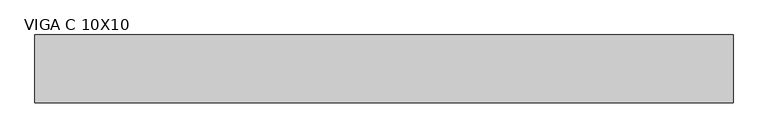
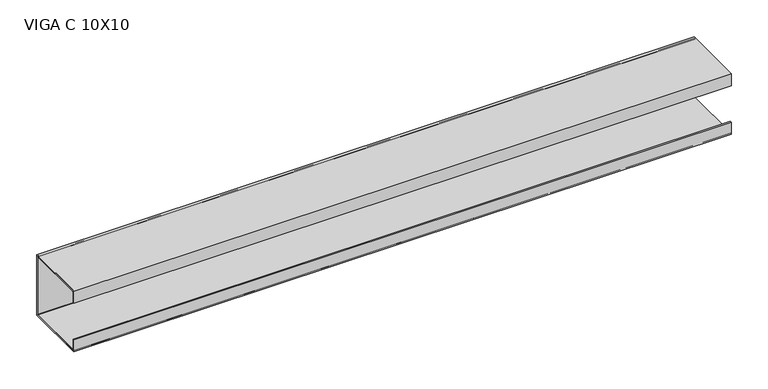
"""IFC4 building model written with IfcOpenShell, lengths in millimetres: beam geometry, VIGA PERFIL C AÇO : VIGA C 10X10."""

import ifcopenshell
import ifcopenshell.guid

model = None  # the IFC model being written
_history = None  # IfcOwnerHistory: only IFC2X3 demands one
_inside = {}  # id of a spatial element -> (the spatial element, [elements in it])
_under = {}  # id of a project, library or spatial element -> (it, [spatial elements below it])
_declared = {}  # id of a project -> (the project, [libraries it declares])
_typed = {}  # id of a type object -> (the type object, [elements of that type])
_made_of = {}  # id of a material, layer set ... -> (it, [elements and type objects made of it])


def new_model(schema):
    """Start an empty IFC model of exactly this schema.

    Asked for "IFC4X3", IfcOpenShell would pick the latest addendum, in which some entities
    have other attributes; the version numbers below select the first issue.
    IFC2X3 requires an IfcOwnerHistory on every rooted entity: one is made here for all.
    """
    global model, _history
    if schema == "IFC4X3":
        model = ifcopenshell.file(schema_version=(4, 3, 0, 0))
    else:
        model = ifcopenshell.file(schema=schema)
    _inside.clear()
    _under.clear()
    _declared.clear()
    _typed.clear()
    _made_of.clear()
    _history = None
    if model.schema == "IFC2X3":
        org = make("IfcOrganization", Name="unknown")
        user = make(
            "IfcPersonAndOrganization",
            ThePerson=make("IfcPerson", FamilyName="unknown"),
            TheOrganization=org,
        )
        app = make(
            "IfcApplication",
            ApplicationDeveloper=org,
            Version="unknown",
            ApplicationFullName="unknown",
            ApplicationIdentifier="unknown",
        )
        _history = make(
            "IfcOwnerHistory",
            OwningUser=user,
            OwningApplication=app,
            ChangeAction="ADDED",
            CreationDate=0,
        )
    return model


def make(cls, **values):
    """One entity of the class cls with the attributes given. An attribute that is None is left unset."""
    return model.create_entity(
        cls, **{name: value for name, value in values.items() if value is not None}
    )


def rooted(cls, **values):
    """An entity with a GlobalId (a new one), such as an element, a storey or a relation."""
    return make(cls, GlobalId=ifcopenshell.guid.new(), OwnerHistory=_history, **values)


def si_unit(unit_type, name, prefix=None):
    """IfcSIUnit, for example si_unit("LENGTHUNIT", "METRE", prefix="MILLI")."""
    return make("IfcSIUnit", UnitType=unit_type, Prefix=prefix, Name=name)


def assignment(units):
    """IfcUnitAssignment: the units of a project."""
    return None if units is None else make("IfcUnitAssignment", Units=units)


def point(xyz):
    """IfcCartesianPoint."""
    return None if xyz is None else make("IfcCartesianPoint", Coordinates=xyz)


def direction(xyz):
    """IfcDirection."""
    return None if xyz is None else make("IfcDirection", DirectionRatios=xyz)


def frame(location, z_axis=None, x_axis=None):
    """IfcAxis2Placement3D, a coordinate frame: its origin and axes. An axis left out is left unset."""
    return make(
        "IfcAxis2Placement3D",
        Location=point(location),
        Axis=direction(z_axis),
        RefDirection=direction(x_axis),
    )


def frame_2d(location, x_axis=None):
    """IfcAxis2Placement2D, a coordinate frame in the plane: its origin and x axis."""
    return make(
        "IfcAxis2Placement2D", Location=point(location), RefDirection=direction(x_axis)
    )


def origin():
    """The frame at (0, 0, 0) with its axes left unset."""
    return frame((0.0, 0.0, 0.0))


def place(relative_to, where):
    """IfcLocalPlacement: puts the frame where relative to a parent placement (None: the world)."""
    return make(
        "IfcLocalPlacement", PlacementRelTo=relative_to, RelativePlacement=where
    )


def context(
    kind, dimensions, precision=None, world=None, true_north=None, identifier=None
):
    """IfcGeometricRepresentationContext, for example the 3D "Model" context."""
    return make(
        "IfcGeometricRepresentationContext",
        ContextIdentifier=identifier,
        ContextType=kind,
        CoordinateSpaceDimension=dimensions,
        Precision=precision,
        WorldCoordinateSystem=world,
        TrueNorth=true_north,
    )


def project(units=None, contexts=None):
    """IfcProject with its units and contexts."""
    return rooted(
        "IfcProject",
        Name="project",
        RepresentationContexts=contexts,
        UnitsInContext=assignment(units),
    )


def spatial(cls, under=None, at=None, **own):
    """A site, building, storey or space (cls), placed at a placement, below another one or the project."""
    s = rooted(cls, ObjectPlacement=at, **own)
    if under is not None:
        _under.setdefault(under.id(), (under, []))[1].append(s)
    return s


def polyline(points):
    """IfcPolyline through the points."""
    return make("IfcPolyline", Points=[point(p) for p in points])


def circle_curve(where, radius):
    """IfcCircle in the frame where."""
    return make("IfcCircle", Position=where, Radius=radius)


def trimmed(basis, trim1, trim2, sense, master):
    """IfcTrimmedCurve: the piece of a basis curve between two trims."""
    return make(
        "IfcTrimmedCurve",
        BasisCurve=basis,
        Trim1=trim1,
        Trim2=trim2,
        SenseAgreement=sense,
        MasterRepresentation=master,
    )


def segment(curve, same_sense, transition):
    """IfcCompositeCurveSegment."""
    return make(
        "IfcCompositeCurveSegment",
        Transition=transition,
        SameSense=same_sense,
        ParentCurve=curve,
    )


def composite_curve(segments, self_intersect=None):
    """IfcCompositeCurve: segments joined end to end."""
    return make("IfcCompositeCurve", Segments=segments, SelfIntersect=self_intersect)


def outline(outer, holes=None, kind="AREA"):
    """IfcArbitraryClosedProfileDef: a profile drawn as a closed curve; with holes, ...WithVoids."""
    if holes is None:
        return make("IfcArbitraryClosedProfileDef", ProfileType=kind, OuterCurve=outer)
    return make(
        "IfcArbitraryProfileDefWithVoids",
        ProfileType=kind,
        OuterCurve=outer,
        InnerCurves=holes,
    )


def extrude(swept, where, along, depth):
    """IfcExtrudedAreaSolid: the profile swept, set in the frame where, extruded along a direction by depth."""
    return make(
        "IfcExtrudedAreaSolid",
        SweptArea=swept,
        Position=where,
        ExtrudedDirection=direction(along),
        Depth=depth,
    )


def shape(context_of_items, identifier, shape_type, items):
    """IfcShapeRepresentation: the items that make up one representation, for example the "Body"."""
    return make(
        "IfcShapeRepresentation",
        ContextOfItems=context_of_items,
        RepresentationIdentifier=identifier,
        RepresentationType=shape_type,
        Items=items,
    )


def source(mapping_origin, context_of_items, identifier, shape_type, items):
    """IfcRepresentationMap: a shape defined once, which mapped items show again and again."""
    return make(
        "IfcRepresentationMap",
        MappingOrigin=mapping_origin,
        MappedRepresentation=shape(context_of_items, identifier, shape_type, items),
    )


def transform(
    local_origin,
    x_axis=None,
    y_axis=None,
    z_axis=None,
    scale=None,
    scale2=None,
    scale3=None,
    uniform=True,
):
    """IfcCartesianTransformationOperator3D, or its non-uniform kind. x_axis, y_axis, z_axis: its Axis1, 2, 3."""
    if uniform:
        return make(
            "IfcCartesianTransformationOperator3D",
            Axis1=direction(x_axis),
            Axis2=direction(y_axis),
            LocalOrigin=point(local_origin),
            Scale=scale,
            Axis3=direction(z_axis),
        )
    return make(
        "IfcCartesianTransformationOperator3DnonUniform",
        Axis1=direction(x_axis),
        Axis2=direction(y_axis),
        LocalOrigin=point(local_origin),
        Scale=scale,
        Axis3=direction(z_axis),
        Scale2=scale2,
        Scale3=scale3,
    )


def mapped(mapping_source, mapping_target):
    """IfcMappedItem: shows the shape of a source again, moved by a transform."""
    return make(
        "IfcMappedItem", MappingSource=mapping_source, MappingTarget=mapping_target
    )


def made_of(thing, what):
    """Note that an element or type object is made of a material, layer set ...; save() writes the relation."""
    if what is not None:
        _made_of.setdefault(what.id(), (what, []))[1].append(thing)
    return thing


def element(
    cls,
    number,
    at=None,
    inside=None,
    cuts=None,
    type_object=None,
    material=None,
    context=None,
    identifier="Body",
    shape_type=None,
    held_by="IfcProductDefinitionShape",
    body=None,
    shapes=None,
    **own,
):
    """One element of the class cls, such as IfcWall. Its Tag is "e" and its number.

    at: its placement. inside: the storey or other place that contains it. cuts: it is an
    opening in that element (IfcRelVoidsElement). A single representation is given by context,
    identifier, shape_type and body (its items); several are given by shapes. held_by: the class
    of the entity that holds the representations. save() writes the other relations.
    """
    e = rooted(cls, Tag="e%d" % number, ObjectPlacement=at, **own)
    if body is not None:
        shapes = [shape(context, identifier, shape_type, body)]
    if shapes is not None:
        e.Representation = make(held_by, Representations=shapes)
    if inside is not None:
        _inside.setdefault(inside.id(), (inside, []))[1].append(e)
    if cuts is not None:
        rooted(
            "IfcRelVoidsElement", RelatingBuildingElement=cuts, RelatedOpeningElement=e
        )
    if type_object is not None:
        _typed.setdefault(type_object.id(), (type_object, []))[1].append(e)
    return made_of(e, material)


def aggregate(whole, parts):
    """IfcRelAggregates: a whole, such as a stair, and the parts it consists of."""
    return rooted("IfcRelAggregates", RelatingObject=whole, RelatedObjects=parts)


def save(model, path):
    """Write the relations noted so far, then the file.

    IfcRelAggregates (storeys below a building ...), IfcRelContainedInSpatialStructure (elements
    in a storey), IfcRelDefinesByType, IfcRelAssociatesMaterial and IfcRelDeclares: one each for
    every whole, place, type object, material and project.
    """
    for whole, parts in _under.values():
        aggregate(whole, parts)
    for where, things in _inside.values():
        rooted(
            "IfcRelContainedInSpatialStructure",
            RelatedElements=things,
            RelatingStructure=where,
        )
    for kind, things in _typed.values():
        rooted("IfcRelDefinesByType", RelatedObjects=things, RelatingType=kind)
    for what, things in _made_of.values():
        rooted("IfcRelAssociatesMaterial", RelatedObjects=things, RelatingMaterial=what)
    for by, libraries in _declared.values():
        rooted("IfcRelDeclares", RelatingContext=by, RelatedDefinitions=libraries)
    model.write(path)


def viga_c_10x10_4e813265(model_context):
    return source(origin(), model_context, "Body", "SweptSolid", [
        extrude(outline(polyline([(9.2, -50.0), (-90.8, -50.0), (-90.8, -30.0), (-88.9, -30.0), (-88.9, -48.1), (7.3, -48.1), (7.3, 48.1), (-88.9, 48.1), (-88.9, 30.0), (-90.8, 30.0), (-90.8, 50.0), (9.2, 50.0), (9.2, -50.0)])), frame((-514.5, 0.0, 0.0), z_axis=(1.0, 0.0, 0.0), x_axis=(0.0, 1.0, 0.0)), (0.0, 0.0, 1.0), 1026.0),
        extrude(outline(composite_curve([segment(trimmed(circle_curve(frame_2d((5.4, -46.2)), 3.8), [point((9.2, -46.2))], [point((5.4, -50.0))], False, "CARTESIAN"), True, "CONTINUOUS"), segment(polyline([(5.4, -50.0), (-87.0, -50.0)]), True, "CONTINUOUS"), segment(trimmed(circle_curve(frame_2d((-87.0, -46.2)), 3.8), [point((-87.0, -50.0))], [point((-90.8, -46.2))], False, "CARTESIAN"), True, "CONTINUOUS"), segment(polyline([(-90.8, -46.2), (-90.8, -30.0), (-88.9, -30.0), (-88.9, -46.2)]), True, "CONTINUOUS"), segment(trimmed(circle_curve(frame_2d((-87.0, -46.2)), 1.9), [point((-88.9, -46.2))], [point((-87.0, -48.1))], True, "CARTESIAN"), True, "CONTINUOUS"), segment(polyline([(-87.0, -48.1), (5.4, -48.1)]), True, "CONTINUOUS"), segment(trimmed(circle_curve(frame_2d((5.4, -46.2)), 1.9), [point((5.4, -48.1))], [point((7.3, -46.2))], True, "CARTESIAN"), True, "CONTINUOUS"), segment(polyline([(7.3, -46.2), (7.3, 46.2)]), True, "CONTINUOUS"), segment(trimmed(circle_curve(frame_2d((5.4, 46.2)), 1.9), [point((7.3, 46.2))], [point((5.4, 48.1))], True, "CARTESIAN"), True, "CONTINUOUS"), segment(polyline([(5.4, 48.1), (-87.0, 48.1)]), True, "CONTINUOUS"), segment(trimmed(circle_curve(frame_2d((-87.0, 46.2)), 1.9), [point((-87.0, 48.1))], [point((-88.9, 46.2))], True, "CARTESIAN"), True, "CONTINUOUS"), segment(polyline([(-88.9, 46.2), (-88.9, 30.0), (-90.8, 30.0), (-90.8, 46.2)]), True, "CONTINUOUS"), segment(trimmed(circle_curve(frame_2d((-87.0, 46.2)), 3.8), [point((-90.8, 46.2))], [point((-87.0, 50.0))], False, "CARTESIAN"), True, "CONTINUOUS"), segment(polyline([(-87.0, 50.0), (5.4, 50.0)]), True, "CONTINUOUS"), segment(trimmed(circle_curve(frame_2d((5.4, 46.2)), 3.8), [point((5.4, 50.0))], [point((9.2, 46.2))], False, "CARTESIAN"), True, "CONTINUOUS"), segment(polyline([(9.2, 46.2), (9.2, -46.2)]), True, "CONTINUOUS")], self_intersect=False)), frame((-514.5, 0.0, 0.0), z_axis=(1.0, 0.0, 0.0), x_axis=(0.0, 1.0, 0.0)), (0.0, 0.0, 1.0), 1026.0),
    ])


if __name__ == "__main__":
    model = new_model("IFC4")
    model_context = context("Model", 3, world=origin())
    ifc_project = project(units=[si_unit("LENGTHUNIT", "METRE", prefix="MILLI")], contexts=[model_context])
    site = spatial("IfcSite", under=ifc_project)
    building = spatial("IfcBuilding", under=site)
    placement = place(None, origin())
    viga_c_10x10_shape = viga_c_10x10_4e813265(model_context)
    element("IfcBeam", 1, ObjectType="VIGA PERFIL C AÇO : VIGA C 10X10", at=placement, inside=building, context=model_context, shape_type="MappedRepresentation", body=[
        mapped(viga_c_10x10_shape, transform((0.0, 0.0, 0.0), x_axis=(1.0, 0.0, 0.0), y_axis=(0.0, 1.0, 0.0), z_axis=(0.0, 0.0, 1.0))),
    ])
    save(model, "model.ifc")
